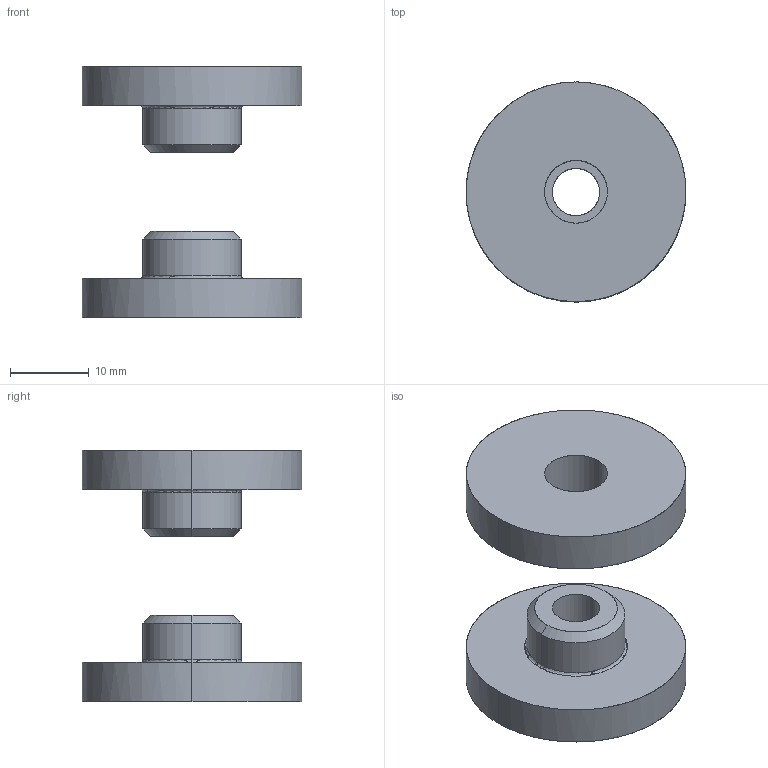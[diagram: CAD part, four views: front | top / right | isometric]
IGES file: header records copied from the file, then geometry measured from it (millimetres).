
Global section: file name: E:\UnigraphicsGraphicData\MISUMI_PRESS-PARTS\IGES\3d_wunt27_00804_r00.igs; native system: NX V5.0; preprocessor: UGS NX IGES V5.0; author: MISUMI; date: 20110105.163520; units: millimetre
Bounding box: 28 x 28 x 32 mm (x, y, z)
Surface area: 4081.6 mm2 (no closed solid volume)
Topology: 0 solids, 0 shells, 26 faces, 208 edges, 208 vertices
Faces by surface type: bspline 26
